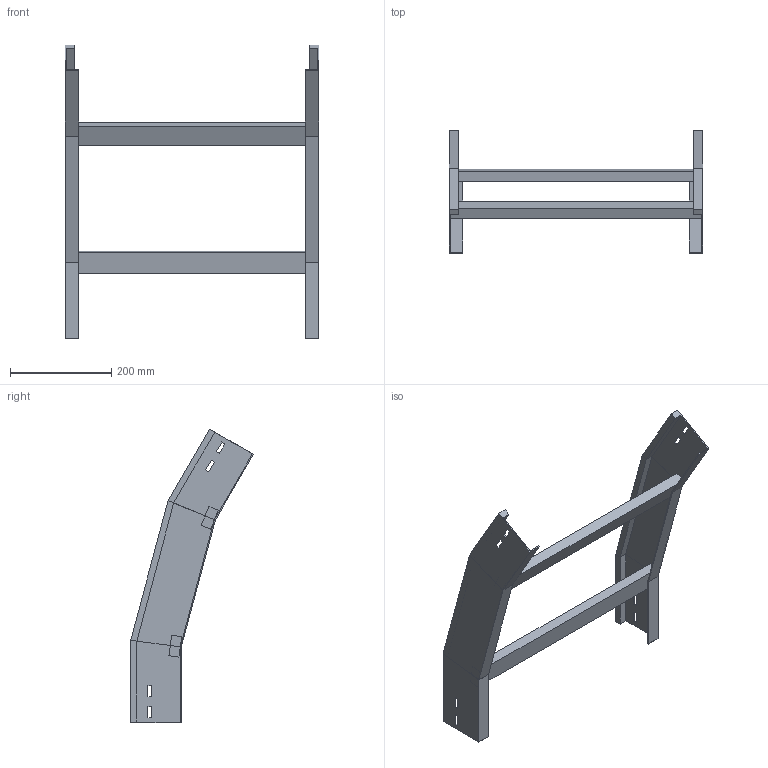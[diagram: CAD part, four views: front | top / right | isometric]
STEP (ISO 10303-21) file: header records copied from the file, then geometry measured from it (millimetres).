
FILE_DESCRIPTION (( 'STEP AP214' ), '1' );
FILE_NAME ('35B5D500.step', '2025-02-21T14:45:46', ( '' ), ( '' ), 'SwSTEP 2.0', 'SolidWorks 2023', '' );
FILE_SCHEMA (( 'AUTOMOTIVE_DESIGN' ));
Length unit declared in the file: millimetre
Products named in the file (3): TRAVERSINO_500; LONGH.DISCESA_30°_H100_R500; 35B5D500
Assembly tree (5 placements, depth 2):
  35B5D500
    LONGH.DISCESA_30°_H100_R500  x2
    TRAVERSINO_500  x3
Bounding box: 500 x 242.03 x 580.08 mm (x, y, z)
Volume: 1726565.4 mm3; surface area: 518851.6 mm2
Topology: 5 solids, 5 shells, 102 faces, 244 edges, 152 vertices
Faces by surface type: plane 102
Entity records: 1480 total; most frequent: CARTESIAN_POINT 244, ORIENTED_EDGE 232, DIRECTION 228, VECTOR 116, LINE 116, EDGE_CURVE 116, VERTEX_POINT 72, AXIS2_PLACEMENT_3D 56
